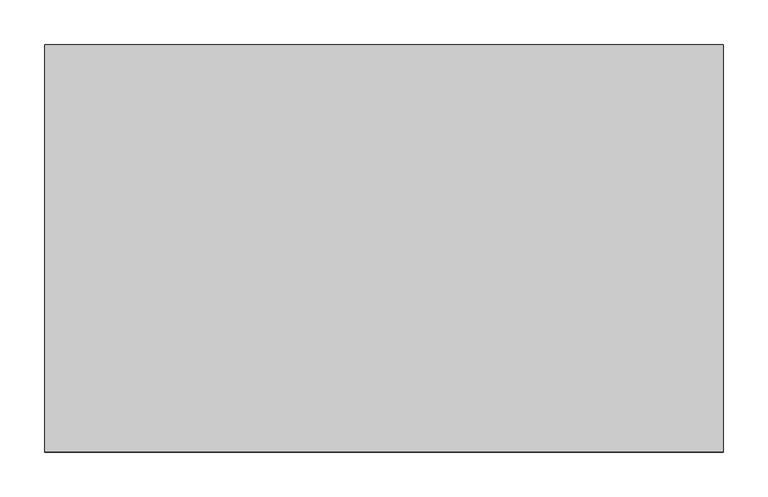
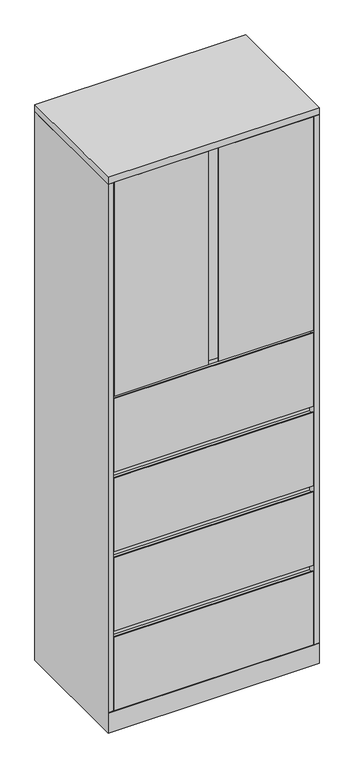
"""IFC4 building model written with IfcOpenShell, lengths in millimetres: furniture geometry, Steelcase - Universal Storage - Cabinet - Combination - Flush Steel : 83 1/2H - 4 Drawers - 18D x 30W."""

from ifc_helpers import new_model, si_unit, frame, origin, place, context, project, spatial, polyline, outline, extrude, faceted_brep, source, transform, mapped, element, save


def furniture_08b7bcdd(model_context):
    return source(origin(), model_context, "Body", "SolidModel", [
        extrude(outline(polyline([(21.8068168, -431.673866), (741.172, -431.673866), (741.172, -457.2), (400.05, -457.2), (400.05, -452.883482), (413.2189152, -452.883482), (413.2189152, -438.0238781), (361.95, -438.0238781), (361.95, -457.2), (21.8068168, -457.2), (21.8068168, -431.673866)])), frame((0.0, 0.0, 1278.636), z_axis=(0.0, 0.0, 1.0), x_axis=(1.0, 0.0, 0.0)), (0.0, 0.0, 1.0), 815.34),
        extrude(outline(polyline([(762.0, 0.0), (762.0, -457.2), (0.0, -457.2), (0.0, 0.0), (762.0, 0.0)])), frame((0.0, 0.0, 2095.4999516), z_axis=(0.0, 0.0, 1.0), x_axis=(1.0, 0.0, 0.0)), (0.0, 0.0, 1.0), 25.4000484),
        extrude(outline(polyline([(736.6000242, -25.4000008), (736.6000242, -430.1498674), (25.4000008, -430.1498674), (25.4000008, -25.4000008), (736.6000242, -25.4000008)])), frame((0.0, 0.0, 1875.1550484), z_axis=(0.0, 0.0, 1.0), x_axis=(1.0, 0.0, 0.0)), (0.0, 0.0, 1.0), 22.2249516),
        extrude(outline(polyline([(736.6000242, -25.4000008), (736.6000242, -430.1498674), (25.4000008, -430.1498674), (25.4000008, -25.4000008), (736.6000242, -25.4000008)])), frame((0.0, 0.0, 1571.8790484), z_axis=(0.0, 0.0, 1.0), x_axis=(1.0, 0.0, 0.0)), (0.0, 0.0, 1.0), 22.2249516),
        extrude(outline(polyline([(-457.2, 358.7750484), (-454.0242491, 358.7750484), (-454.0242491, 349.2500484), (-431.673866, 349.2500484), (-431.673866, 381.0), (-430.1498674, 381.0), (-430.1498674, 349.2500484), (-430.1498674, 77.724), (-457.2, 77.724), (-457.2, 358.7750484)])), frame((20.8280006, 0.0, 0.0), z_axis=(1.0, 0.0, 0.0), x_axis=(0.0, 1.0, 0.0)), (0.0, 0.0, 1.0), 720.3439994),
        extrude(outline(polyline([(736.6000242, -25.4000008), (736.6000242, -430.1498674), (25.4000008, -430.1498674), (25.4000008, -25.4000008), (736.6000242, -25.4000008)])), frame((0.0, 0.0, 358.7750484), z_axis=(0.0, 0.0, 1.0), x_axis=(1.0, 0.0, 0.0)), (0.0, 0.0, 1.0), 22.2249516),
        extrude(outline(polyline([(-457.2, 1268.6030484), (-454.0242491, 1268.6030484), (-454.0242491, 1259.0780484), (-431.673866, 1259.0780484), (-431.673866, 1290.828), (-430.1498674, 1290.828), (-430.1498674, 1259.0780484), (-430.1498674, 987.552), (-457.2, 987.552), (-457.2, 1268.6030484)])), frame((20.8280006, 0.0, 0.0), z_axis=(1.0, 0.0, 0.0), x_axis=(0.0, 1.0, 0.0)), (0.0, 0.0, 1.0), 720.3439994),
        extrude(outline(polyline([(736.6000242, -25.4000008), (736.6000242, -430.1498674), (25.4000008, -430.1498674), (25.4000008, -25.4000008), (736.6000242, -25.4000008)])), frame((0.0, 0.0, 1268.6030484), z_axis=(0.0, 0.0, 1.0), x_axis=(1.0, 0.0, 0.0)), (0.0, 0.0, 1.0), 22.2249516),
        extrude(outline(polyline([(-457.2, 965.3270484), (-454.0242491, 965.3270484), (-454.0242491, 955.8020484), (-431.673866, 955.8020484), (-431.673866, 987.552), (-430.1498674, 987.552), (-430.1498674, 955.8020484), (-430.1498674, 684.276), (-457.2, 684.276), (-457.2, 965.3270484)])), frame((20.8280006, 0.0, 0.0), z_axis=(1.0, 0.0, 0.0), x_axis=(0.0, 1.0, 0.0)), (0.0, 0.0, 1.0), 720.3439994),
        extrude(outline(polyline([(736.6000242, -25.4000008), (736.6000242, -430.1498674), (25.4000008, -430.1498674), (25.4000008, -25.4000008), (736.6000242, -25.4000008)])), frame((0.0, 0.0, 965.3270484), z_axis=(0.0, 0.0, 1.0), x_axis=(1.0, 0.0, 0.0)), (0.0, 0.0, 1.0), 22.2249516),
        extrude(outline(polyline([(-457.2, 662.0510484), (-454.0242491, 662.0510484), (-454.0242491, 652.5260484), (-431.673866, 652.5260484), (-431.673866, 684.276), (-430.1498674, 684.276), (-430.1498674, 652.5260484), (-430.1498674, 381.0), (-457.2, 381.0), (-457.2, 662.0510484)])), frame((20.8280006, 0.0, 0.0), z_axis=(1.0, 0.0, 0.0), x_axis=(0.0, 1.0, 0.0)), (0.0, 0.0, 1.0), 720.3439994),
        extrude(outline(polyline([(736.6000242, -25.4000008), (736.6000242, -430.1498674), (25.4000008, -430.1498674), (25.4000008, -25.4000008), (736.6000242, -25.4000008)])), frame((0.0, 0.0, 662.0510484), z_axis=(0.0, 0.0, 1.0), x_axis=(1.0, 0.0, 0.0)), (0.0, 0.0, 1.0), 22.2249516),
        faceted_brep([(762.0, 0.0, 0.0), (762.0, -457.2, 0.0), (0.0, -457.2, 0.0), (0.0, 0.0, 0.0), (0.0, 0.0, 2093.976), (762.0, 0.0, 2093.976), (0.0, -457.2, 76.2), (0.0, -457.2, 77.724), (0.0, -457.2, 2093.976), (762.0, -457.2, 76.2), (762.0, -457.2, 2093.976), (762.0, -457.2, 77.724), (736.6000242, -25.4000008, 2093.976), (736.6000242, -430.1498674, 2093.976), (741.172, -430.1498674, 2093.976), (741.172, -431.6738781, 2093.976), (742.696, -431.6738781, 2093.976), (742.696, -457.2, 2093.976), (19.304, -457.2, 2093.976), (19.304, -431.673866, 2093.976), (20.8280006, -431.673866, 2093.976), (20.8280006, -430.1498674, 2093.976), (25.4000008, -430.1498674, 2093.976), (25.4000008, -25.4000008, 2093.976), (19.304, -457.2, 77.724), (19.304, -437.896, 77.724), (742.696, -457.2, 77.724), (742.696, -437.7698418, 77.724), (736.6000242, -25.4000008, 77.724), (736.6000242, -430.1498674, 77.724), (741.172, -430.1498674, 77.724), (741.172, -431.6738781, 77.724), (742.696, -431.6738781, 77.724), (19.304, -431.673866, 77.724), (20.8280006, -431.673866, 77.724), (20.8280006, -430.1498674, 77.724), (25.4000008, -430.1498674, 77.724), (25.4000008, -25.4000008, 77.724), (25.526134, -431.673866, 77.724), (736.6000242, -431.673866, 77.724)], [[[0, 1, 2, 3]], [[0, 3, 4, 5]], [[4, 3, 2, 6, 7, 8]], [[2, 1, 9, 6]], [[1, 0, 5, 10, 11, 9]], [[12, 13, 14, 15, 16, 17, 10, 5, 4, 8, 18, 19, 20, 21, 22, 23]], [[24, 7, 25]], [[11, 26, 27]], [[13, 12, 28, 29]], [[14, 13, 29, 30]], [[15, 14, 30, 31]], [[16, 15, 31, 32]], [[17, 16, 32, 27, 26]], [[10, 17, 26, 11]], [[18, 8, 7, 24]], [[19, 18, 24, 25, 33]], [[20, 19, 33, 34]], [[21, 20, 34, 35]], [[22, 21, 35, 36]], [[23, 22, 36, 37]], [[12, 23, 37, 28]], [[38, 39, 27, 32, 31, 30, 29, 28, 37, 36, 35, 34, 33, 25]], [[7, 6, 38, 25]], [[39, 38, 6, 9]], [[39, 9, 11, 27]]]),
    ])


if __name__ == "__main__":
    model = new_model("IFC4")
    model_context = context("Model", 3, world=origin())
    ifc_project = project(units=[si_unit("LENGTHUNIT", "METRE", prefix="MILLI")], contexts=[model_context])
    site = spatial("IfcSite", under=ifc_project)
    building = spatial("IfcBuilding", under=site)
    placement = place(None, origin())
    furniture_shape = furniture_08b7bcdd(model_context)
    element("IfcFurniture", 1, ObjectType="Steelcase - Universal Storage - Cabinet - Combination - Flush Steel : 83 1/2H - 4 Drawers - 18D x 30W", at=placement, inside=building, context=model_context, shape_type="MappedRepresentation", body=[
        mapped(furniture_shape, transform((0.0, 0.0, 0.0), x_axis=(1.0, 0.0, 0.0), y_axis=(0.0, 1.0, 0.0), z_axis=(0.0, 0.0, 1.0))),
    ])
    save(model, "model.ifc")
